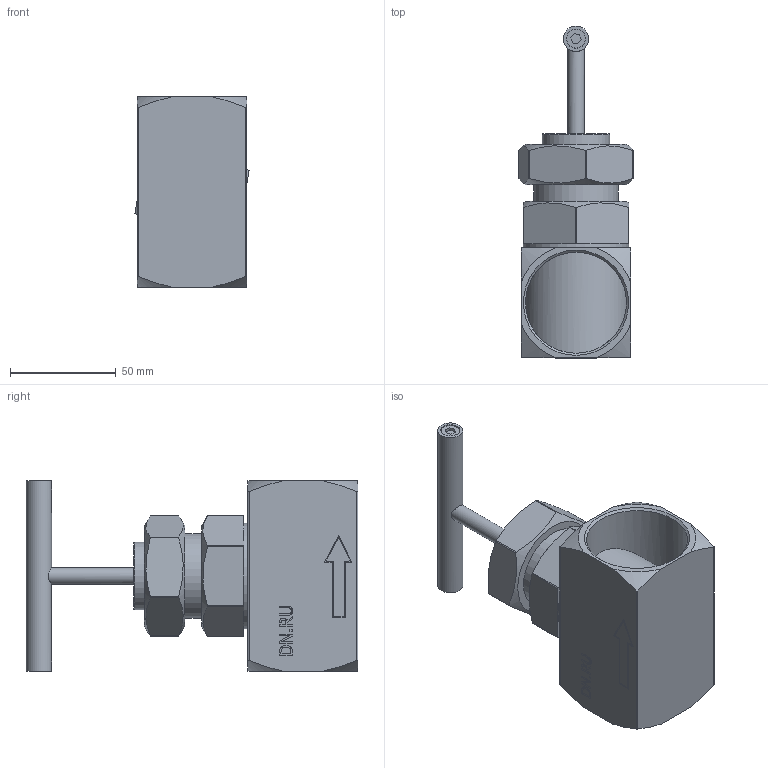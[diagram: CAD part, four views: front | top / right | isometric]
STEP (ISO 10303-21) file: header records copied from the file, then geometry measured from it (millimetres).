
FILE_DESCRIPTION(('STEP AP214'), '1');
FILE_NAME('VN3131M-T-Ht 孰囡囗 桡铍囹 DN.ru 捏40 畜400', '', ('UNSPECIFIED'), ('UNSPECIFIED'), 'C3D Converter', 'C3D Toolkit', '');
FILE_SCHEMA(('AUTOMOTIVE_DESIGN { 1 0 10303 214 3 1 1}'));
Length unit declared in the file: millimetre
Products named in the file (1): VN3131M-T-Ht
Bounding box: 53.97 x 157 x 90 mm (x, y, z)
Volume: 271601.8 mm3; surface area: 47382 mm2
Topology: 1 solids, 1 shells, 174 faces, 442 edges, 293 vertices
Faces by surface type: plane 108, cylinder 29, bspline 23, cone 13, torus 1
Full cylindrical faces by diameter (mm): 8 x1, 8.866 x2, 9.066 x2, 12 x1, 32 x1, 40 x1, 47.803 x2, 50 x1
Entity records: 12739 total; most frequent: CARTESIAN_POINT 7341, ORIENTED_EDGE 850, DIRECTION 660, EDGE_CURVE 425, VERTEX_POINT 293, LINE 264, VECTOR 264, EDGE_LOOP 214
